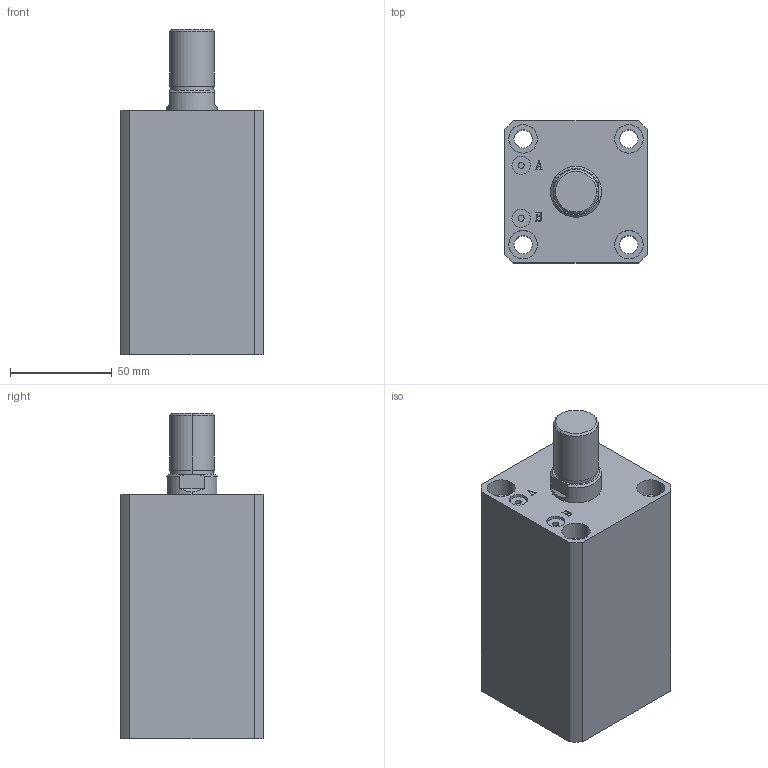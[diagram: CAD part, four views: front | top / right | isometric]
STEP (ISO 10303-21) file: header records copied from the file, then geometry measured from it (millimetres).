
FILE_DESCRIPTION (( 'STEP AP203' ), '1' );
FILE_NAME ('HTB-SDMA40-65W.STEP', '2019-10-07T11:55:32', ( '微软用户' ), ( '微软中国' ), 'SwSTEP 2.0', 'SolidWorks 2012', '' );
FILE_SCHEMA (( 'CONFIG_CONTROL_DESIGN' ));
Length unit declared in the file: millimetre
Products named in the file (3): HTB-SDMA40-65W; HTB-SDMA40-65W活塞杆; HTB-SDMA40-65掛极
Assembly tree (2 placements, depth 2):
  HTB-SDMA40-65W
    HTB-SDMA40-65掛极
    HTB-SDMA40-65W活塞杆
Bounding box: 70 x 70 x 160 mm (x, y, z)
Volume: 512308 mm3; surface area: 85588.3 mm2
Topology: 2 solids, 2 shells, 141 faces, 337 edges, 222 vertices
Faces by surface type: plane 67, cylinder 48, bspline 16, torus 6, cone 4
Entity records: 5180 total; most frequent: CARTESIAN_POINT 1597, ORIENTED_EDGE 674, DIRECTION 669, EDGE_CURVE 337, AXIS2_PLACEMENT_3D 242, VERTEX_POINT 222, LINE 185, VECTOR 185
